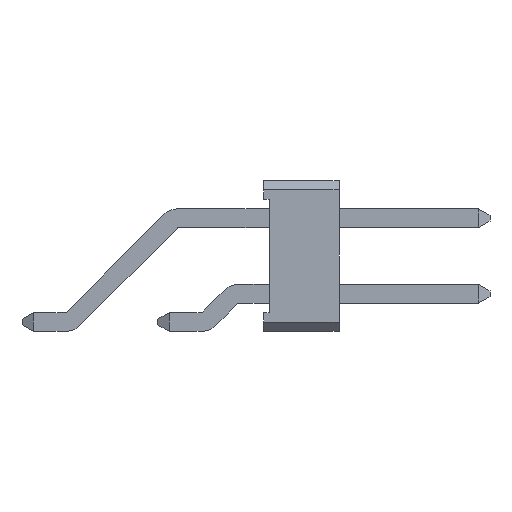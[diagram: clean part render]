
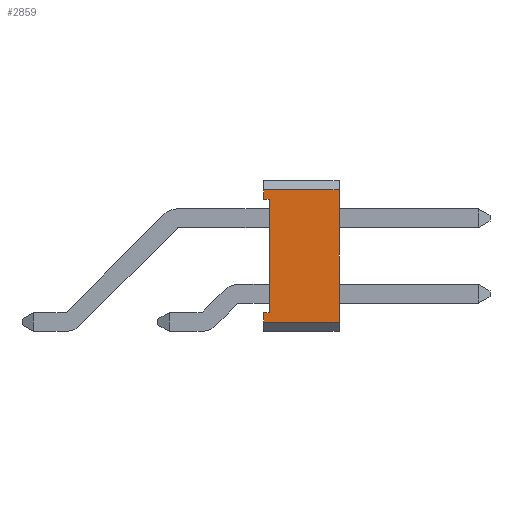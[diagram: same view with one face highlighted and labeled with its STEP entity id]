
A CAD part, left-side view. The second image highlights one B-rep face of the part: STEP entity #2859.
In plain terms, the highlighted planar face has unit normal (-1, 0, 0).
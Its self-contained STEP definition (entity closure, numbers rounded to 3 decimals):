
#1601 = VERTEX_POINT('',#1602);
#1602 = CARTESIAN_POINT('',(-6.081,-3.862,
    0.5));
#1786 = VERTEX_POINT('',#1787);
#1787 = CARTESIAN_POINT('',(-6.081,-3.862,
    0.25));
#1793 = EDGE_CURVE('',#1786,#1601,#1794,.T.);
#1794 = LINE('',#1795,#1796);
#1795 = CARTESIAN_POINT('',(-6.081,-3.862,0.));
#1796 = VECTOR('',#1797,1.);
#1797 = DIRECTION('',(0.,0.,1.));
#2224 = VERTEX_POINT('',#2225);
#2225 = CARTESIAN_POINT('',(-6.081,-5.862,
    3.75));
#2231 = EDGE_CURVE('',#2232,#2224,#2234,.T.);
#2232 = VERTEX_POINT('',#2233);
#2233 = CARTESIAN_POINT('',(-6.081,-5.862,
    0.25));
#2234 = LINE('',#2235,#2236);
#2235 = CARTESIAN_POINT('',(-6.081,-5.862,0.));
#2236 = VECTOR('',#2237,1.);
#2237 = DIRECTION('',(0.,0.,1.));
#2859 = ADVANCED_FACE('',(#2860),#2908,.T.);
#2860 = FACE_BOUND('',#2861,.T.);
#2861 = EDGE_LOOP('',(#2862,#2870,#2871,#2877,#2878,#2886,#2894,#2902));
#2862 = ORIENTED_EDGE('',*,*,#2863,.F.);
#2863 = EDGE_CURVE('',#1601,#2864,#2866,.T.);
#2864 = VERTEX_POINT('',#2865);
#2865 = CARTESIAN_POINT('',(-6.081,-4.012,
    0.5));
#2866 = LINE('',#2867,#2868);
#2867 = CARTESIAN_POINT('',(-6.081,-3.862,
    0.5));
#2868 = VECTOR('',#2869,1.);
#2869 = DIRECTION('',(0.,-1.,0.));
#2870 = ORIENTED_EDGE('',*,*,#1793,.F.);
#2871 = ORIENTED_EDGE('',*,*,#2872,.T.);
#2872 = EDGE_CURVE('',#1786,#2232,#2873,.T.);
#2873 = LINE('',#2874,#2875);
#2874 = CARTESIAN_POINT('',(-6.081,-5.862,
    0.25));
#2875 = VECTOR('',#2876,1.);
#2876 = DIRECTION('',(0.,-1.,0.));
#2877 = ORIENTED_EDGE('',*,*,#2231,.T.);
#2878 = ORIENTED_EDGE('',*,*,#2879,.T.);
#2879 = EDGE_CURVE('',#2224,#2880,#2882,.T.);
#2880 = VERTEX_POINT('',#2881);
#2881 = CARTESIAN_POINT('',(-6.081,-3.862,
    3.75));
#2882 = LINE('',#2883,#2884);
#2883 = CARTESIAN_POINT('',(-6.081,-3.862,
    3.75));
#2884 = VECTOR('',#2885,1.);
#2885 = DIRECTION('',(0.,1.,0.));
#2886 = ORIENTED_EDGE('',*,*,#2887,.F.);
#2887 = EDGE_CURVE('',#2888,#2880,#2890,.T.);
#2888 = VERTEX_POINT('',#2889);
#2889 = CARTESIAN_POINT('',(-6.081,-3.862,
    3.5));
#2890 = LINE('',#2891,#2892);
#2891 = CARTESIAN_POINT('',(-6.081,-3.862,0.));
#2892 = VECTOR('',#2893,1.);
#2893 = DIRECTION('',(0.,0.,1.));
#2894 = ORIENTED_EDGE('',*,*,#2895,.F.);
#2895 = EDGE_CURVE('',#2896,#2888,#2898,.T.);
#2896 = VERTEX_POINT('',#2897);
#2897 = CARTESIAN_POINT('',(-6.081,-4.012,
    3.5));
#2898 = LINE('',#2899,#2900);
#2899 = CARTESIAN_POINT('',(-6.081,-3.862,
    3.5));
#2900 = VECTOR('',#2901,1.);
#2901 = DIRECTION('',(0.,1.,0.));
#2902 = ORIENTED_EDGE('',*,*,#2903,.F.);
#2903 = EDGE_CURVE('',#2864,#2896,#2904,.T.);
#2904 = LINE('',#2905,#2906);
#2905 = CARTESIAN_POINT('',(-6.081,-4.012,
    0.5));
#2906 = VECTOR('',#2907,1.);
#2907 = DIRECTION('',(0.,0.,1.));
#2908 = PLANE('',#2909);
#2909 = AXIS2_PLACEMENT_3D('',#2910,#2911,#2912);
#2910 = CARTESIAN_POINT('',(-6.081,-5.862,0.));
#2911 = DIRECTION('',(-1.,0.,0.));
#2912 = DIRECTION('',(0.,0.,1.));
